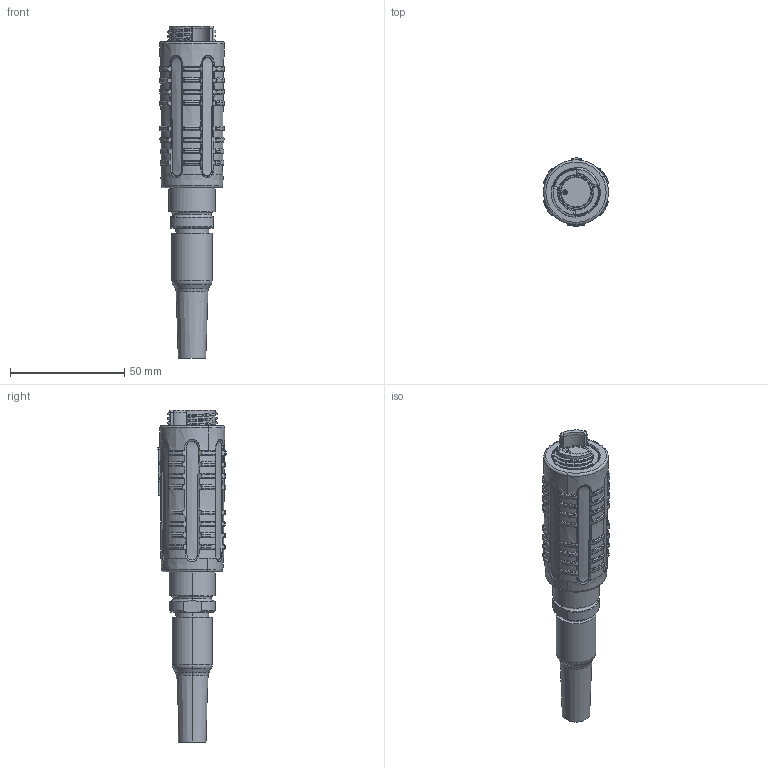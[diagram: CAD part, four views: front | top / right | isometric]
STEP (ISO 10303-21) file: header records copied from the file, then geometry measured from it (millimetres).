
FILE_DESCRIPTION (( 'STEP AP214' ), '1' );
FILE_NAME ('QMINI-PHXX-XXXX-S105.STEP', '2025-05-20T23:48:31', ( '' ), ( '' ), 'SwSTEP 2.0', 'SolidWorks 2024', '' );
FILE_SCHEMA (( 'AUTOMOTIVE_DESIGN' ));
Length unit declared in the file: inch
Products named in the file (1): QMINI-PHXX-XXXX-S105
Bounding box: 28.46 x 29.78 x 145.11 mm (x, y, z)
Volume: 49335.4 mm3; surface area: 15180 mm2
Topology: 1 solids, 1 shells, 954 faces, 2453 edges, 1514 vertices
Faces by surface type: bspline 408, cone 273, torus 124, plane 76, cylinder 65, sphere 8
Entity records: 39050 total; most frequent: CARTESIAN_POINT 19890, ORIENTED_EDGE 4906, DIRECTION 2883, EDGE_CURVE 2453, VERTEX_POINT 1514, B_SPLINE_CURVE_WITH_KNOTS 1344, AXIS2_PLACEMENT_3D 1316, EDGE_LOOP 969
